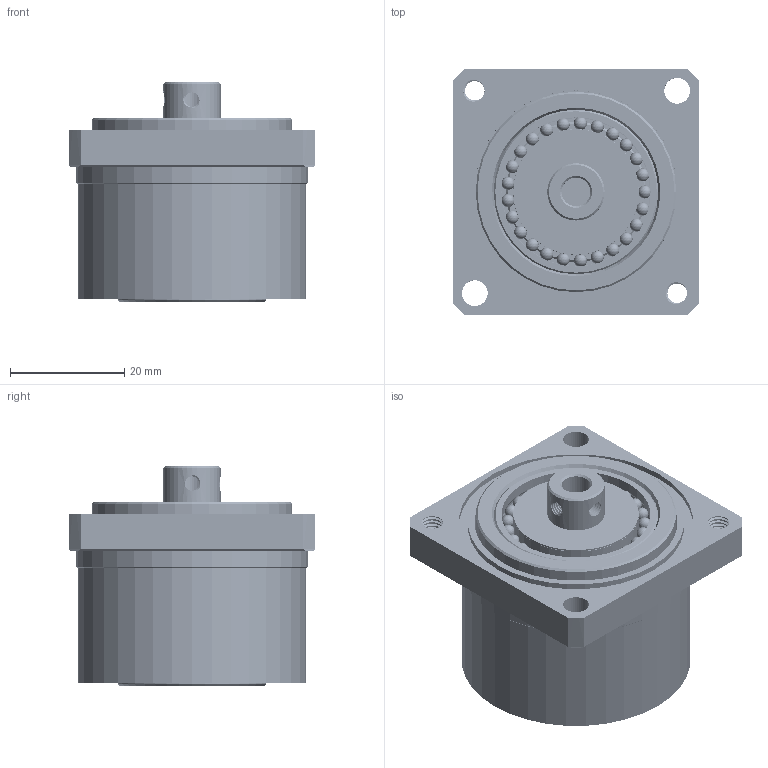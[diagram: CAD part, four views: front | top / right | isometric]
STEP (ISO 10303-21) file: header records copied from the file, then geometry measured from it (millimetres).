
FILE_DESCRIPTION(/* description */ (''),/* implementation_level */ '2;1');
FILE_NAME(/* name */ 'MINI11成品图.prt.stp',/* time_stamp */ '2022-07-21T18:30:17+08:00',/* author */ (''),/* organization */ (''),/* preprocessor_version */ 'ST-DEVELOPER v16',/* originating_system */ 'SIEMENS PLM Software NX 10.0',/* authorisation */ '');
FILE_SCHEMA (('CONFIG_CONTROL_DESIGN'));
Length unit declared in the file: millimetre
Products named in the file (13): MINI11-6外壳; M2X8; MINI11-4-1-1销子; M3X 8; MINI11-3凸轮; MINI11-柔性轴承; MINI11-5柔轮压板; MINI11-2柔轮; G26365; MINI11-4-1内芯; MINI11-4-2外圈; MINI11-7钢轮外壳组件_MODEL; MINI11成品图
Assembly tree (17 placements, depth 3):
  MINI11成品图
    MINI11-4-2外圈
    MINI11-4-1内芯
    G26365
    MINI11-2柔轮
    MINI11-5柔轮压板
    MINI11-柔性轴承
    MINI11-3凸轮
    M3X 8  x6
    MINI11-7钢轮外壳组件_MODEL
      MINI11-6外壳
    MINI11-4-1-1销子
    M2X8
Bounding box: 43 x 43 x 38.3 mm (x, y, z)
Volume: 31363.7 mm3; surface area: 32119.9 mm2
Topology: 43 solids, 43 shells, 589 faces, 1461 edges, 955 vertices
Faces by surface type: plane 218, cylinder 127, cone 93, bspline 73, extrusion 47, sphere 25, torus 6
Full cylindrical faces by diameter (mm): 2.2 x1, 3.5 x12, 4 x2, 4.5 x2, 5 x1, 5.6 x6, 6 x3, 10 x1, 12 x1, 12.5 x1, 17.5 x2, 18 x1, 19.8 x1, 20.73 x1, 21.93 x2, 22 x1, 24.5 x1, 26 x2, 26.062 x2, 27.26 x1, 27.262 x1, 28 x2, 28.64 x1, 29 x1, 29.2 x1, 31 x1, 31.5 x1, 32 x1, 35 x1, 35.5 x1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
Entity records: 100449 total; most frequent: CARTESIAN_POINT 89233, ORIENTED_EDGE 1918, DIRECTION 1636, EDGE_CURVE 959, VERTEX_POINT 727, EDGE_LOOP 680, AXIS2_PLACEMENT_3D 667, ADVANCED_FACE 482
